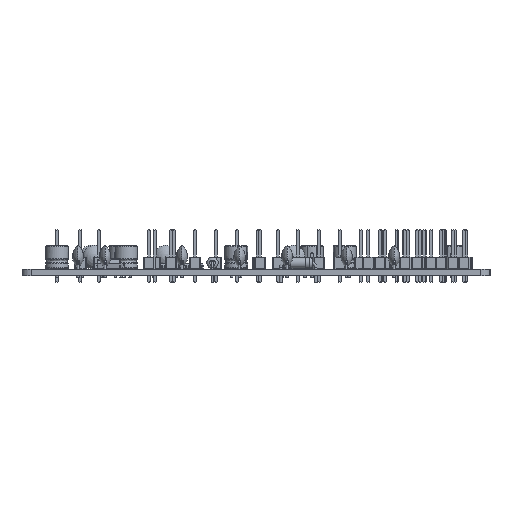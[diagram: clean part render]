
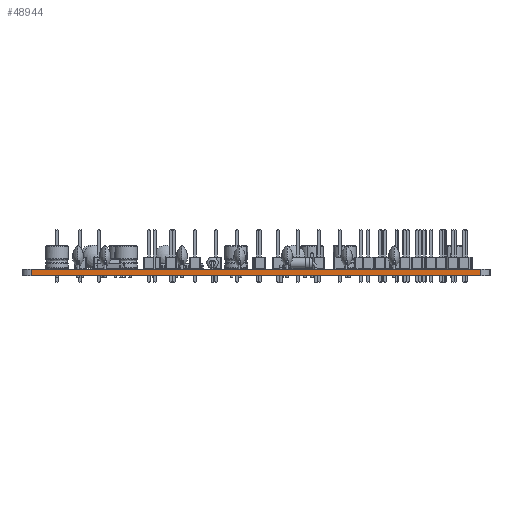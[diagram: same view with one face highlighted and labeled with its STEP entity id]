
A CAD part, left-side view. The second image highlights one B-rep face of the part: STEP entity #48944.
In plain terms, the highlighted planar face has unit normal (-1, 0, 0).
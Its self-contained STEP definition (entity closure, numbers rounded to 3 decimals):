
#39573 = VERTEX_POINT('',#39574);
#39574 = CARTESIAN_POINT('',(52.05,-51.55,0.));
#39581 = EDGE_CURVE('',#39582,#39573,#39584,.T.);
#39582 = VERTEX_POINT('',#39583);
#39583 = CARTESIAN_POINT('',(52.05,-150.,0.));
#39584 = LINE('',#39585,#39586);
#39585 = CARTESIAN_POINT('',(52.05,-150.,0.));
#39586 = VECTOR('',#39587,1.);
#39587 = DIRECTION('',(0.,1.,0.));
#44245 = VERTEX_POINT('',#44246);
#44246 = CARTESIAN_POINT('',(52.05,-51.55,1.51));
#44253 = EDGE_CURVE('',#44254,#44245,#44256,.T.);
#44254 = VERTEX_POINT('',#44255);
#44255 = CARTESIAN_POINT('',(52.05,-150.,1.51));
#44256 = LINE('',#44257,#44258);
#44257 = CARTESIAN_POINT('',(52.05,-150.,1.51));
#44258 = VECTOR('',#44259,1.);
#44259 = DIRECTION('',(0.,1.,0.));
#48914 = EDGE_CURVE('',#39573,#44245,#48915,.T.);
#48915 = LINE('',#48916,#48917);
#48916 = CARTESIAN_POINT('',(52.05,-51.55,0.));
#48917 = VECTOR('',#48918,1.);
#48918 = DIRECTION('',(0.,0.,1.));
#48944 = ADVANCED_FACE('',(#48945),#48956,.T.);
#48945 = FACE_BOUND('',#48946,.T.);
#48946 = EDGE_LOOP('',(#48947,#48953,#48954,#48955));
#48947 = ORIENTED_EDGE('',*,*,#48948,.T.);
#48948 = EDGE_CURVE('',#39582,#44254,#48949,.T.);
#48949 = LINE('',#48950,#48951);
#48950 = CARTESIAN_POINT('',(52.05,-150.,0.));
#48951 = VECTOR('',#48952,1.);
#48952 = DIRECTION('',(0.,0.,1.));
#48953 = ORIENTED_EDGE('',*,*,#44253,.T.);
#48954 = ORIENTED_EDGE('',*,*,#48914,.F.);
#48955 = ORIENTED_EDGE('',*,*,#39581,.F.);
#48956 = PLANE('',#48957);
#48957 = AXIS2_PLACEMENT_3D('',#48958,#48959,#48960);
#48958 = CARTESIAN_POINT('',(52.05,-150.,0.));
#48959 = DIRECTION('',(-1.,0.,0.));
#48960 = DIRECTION('',(0.,1.,0.));
